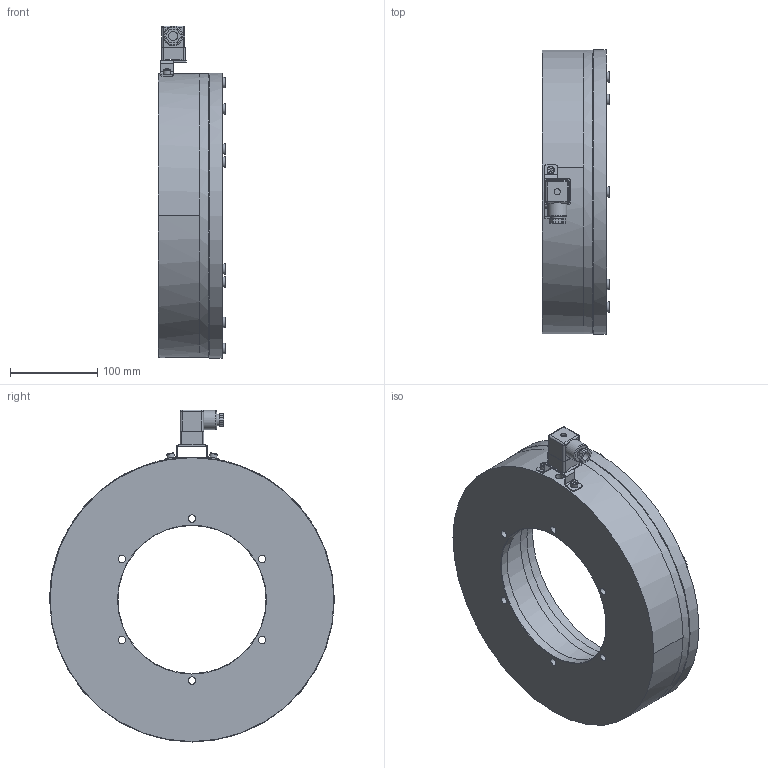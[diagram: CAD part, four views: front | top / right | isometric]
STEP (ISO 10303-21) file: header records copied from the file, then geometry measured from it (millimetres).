
FILE_DESCRIPTION(/* description */ (''),/* implementation_level */ '2;1');
FILE_NAME(/* name */ 'X:\INVENTOR\DISEGNI\08_Freni_Friz_Elettmag_Monodisco\08_28 EMFL_DF\EMFL_DF STEP\08_28_310_11 EMFL310_DF-B_S@STEP.stp',/* time_stamp */ '2018-04-23T16:10:01+02:00',/* author */ ('stefano'),/* organization */ (''),/* preprocessor_version */ 'ST-DEVELOPER v17',/* originating_system */ 'Autodesk Inventor 2018',/* authorisation */ '');
FILE_SCHEMA (('AUTOMOTIVE_DESIGN { 1 0 10303 214 3 1 1 }'));
Length unit declared in the file: millimetre
Products named in the file (1): 08_28_310_11 EMFL310_DF-B - Spina_Substitute_1
Bounding box: 77 x 327 x 381.11 mm (x, y, z)
Volume: 3677832.5 mm3; surface area: 464103.6 mm2
Topology: 3 solids, 3 shells, 514 faces, 1508 edges, 1008 vertices
Faces by surface type: cylinder 310, plane 158, cone 39, sphere 4, torus 3
Full cylindrical faces by diameter (mm): 2 x1, 3 x12, 5 x2, 7 x1, 8.1 x12, 8.5 x8, 9 x2, 10.1 x6, 10.5 x1, 12 x12, 13 x1, 15 x12, 22 x1, 170 x1, 202 x2, 214 x1, 238 x1, 300 x1, 326 x1, 327 x1
Entity records: 18565 total; most frequent: DIRECTION 3440, CARTESIAN_POINT 3280, ORIENTED_EDGE 3010, EDGE_CURVE 1505, AXIS2_PLACEMENT_3D 1450, VERTEX_POINT 1012, CIRCLE 935, EDGE_LOOP 655
